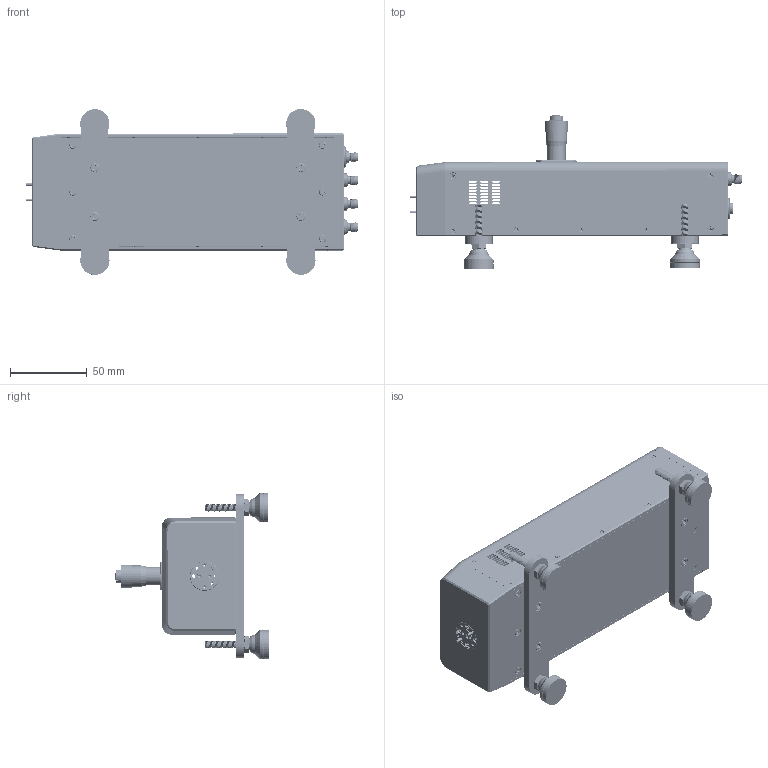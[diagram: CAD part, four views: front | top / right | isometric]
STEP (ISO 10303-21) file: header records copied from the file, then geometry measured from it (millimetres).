
FILE_DESCRIPTION (( 'STEP AP214' ), '1' );
FILE_NAME ('TO-SV-A-M-2.STEP', '2025-07-09T20:51:07', ( '' ), ( '' ), 'SwSTEP 2.0', 'SolidWorks 2021', '' );
FILE_SCHEMA (( 'AUTOMOTIVE_DESIGN' ));
Length unit declared in the file: inch
Products named in the file (1): TO-SV-A-M-2
Bounding box: 216.15 x 99.74 x 108.03 mm (x, y, z)
Volume: 238247.3 mm3; surface area: 163234.5 mm2
Topology: 103 solids, 103 shells, 5802 faces, 15529 edges, 9956 vertices
Faces by surface type: cylinder 3087, plane 1303, cone 915, bspline 473, sphere 16, torus 8
Entity records: 412941 total; most frequent: CARTESIAN_POINT 208945, ORIENTED_EDGE 30738, DIRECTION 22237, EDGE_CURVE 15369, VERTEX_POINT 9932, AXIS2_PLACEMENT_3D 8288, EDGE_LOOP 6309, DIMENSIONAL_EXPONENTS 5894
